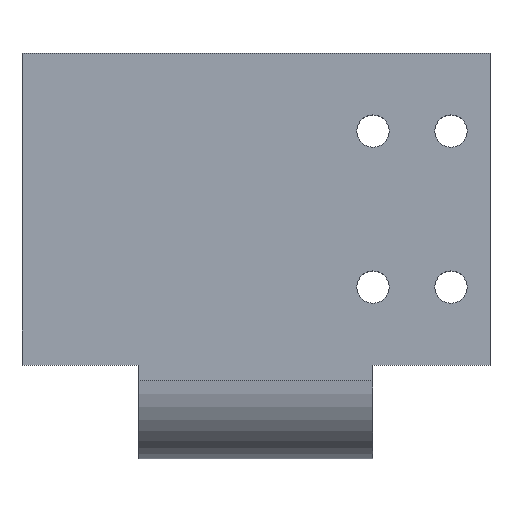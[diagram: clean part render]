
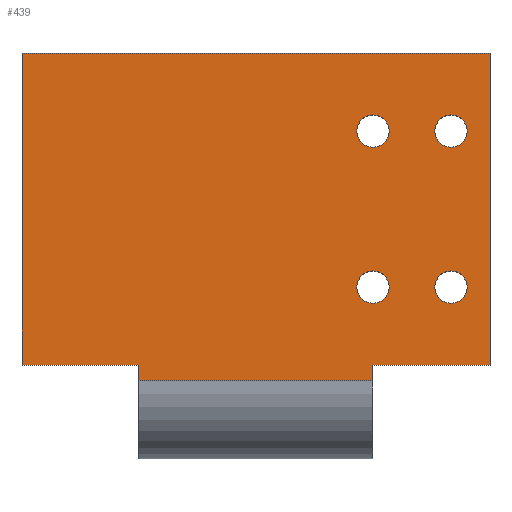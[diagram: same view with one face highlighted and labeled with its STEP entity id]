
A CAD part, top view. The second image highlights one B-rep face of the part: STEP entity #439.
In plain terms, the highlighted planar face has unit normal (0, 0, 1).
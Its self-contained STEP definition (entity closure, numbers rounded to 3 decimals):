
#26 = VECTOR ( 'NONE', #1461, 1000. ) ;
#43 = CARTESIAN_POINT ( 'NONE',  ( 60., -20., 0. ) ) ;
#58 = CARTESIAN_POINT ( 'NONE',  ( 45., 10., 0. ) ) ;
#65 = DIRECTION ( 'NONE',  ( 1., 0., 0. ) ) ;
#73 = EDGE_CURVE ( 'NONE', #450, #920, #1194, .T. ) ;
#78 = ORIENTED_EDGE ( 'NONE', *, *, #238, .F. ) ;
#79 = EDGE_CURVE ( 'NONE', #929, #450, #614, .T. ) ;
#81 = DIRECTION ( 'NONE',  ( 0., 0., 1. ) ) ;
#83 = ORIENTED_EDGE ( 'NONE', *, *, #284, .F. ) ;
#101 = EDGE_CURVE ( 'NONE', #1500, #1601, #658, .T. ) ;
#107 = VERTEX_POINT ( 'NONE', #1477 ) ;
#180 = EDGE_CURVE ( 'NONE', #920, #1601, #1426, .T. ) ;
#210 = VERTEX_POINT ( 'NONE', #1066 ) ;
#220 = DIRECTION ( 'NONE',  ( 0., 0., 1. ) ) ;
#223 = VECTOR ( 'NONE', #667, 1000. ) ;
#230 = CARTESIAN_POINT ( 'NONE',  ( 60., 20., 0. ) ) ;
#237 = DIRECTION ( 'NONE',  ( 1., 0., 0. ) ) ;
#238 = EDGE_CURVE ( 'NONE', #1256, #929, #413, .T. ) ;
#244 = DIRECTION ( 'NONE',  ( 1., 0., 0. ) ) ;
#247 = FACE_OUTER_BOUND ( 'NONE', #313, .T. ) ;
#258 = CARTESIAN_POINT ( 'NONE',  ( 0., 20., 0. ) ) ;
#262 = VECTOR ( 'NONE', #982, 1000. ) ;
#267 = FACE_BOUND ( 'NONE', #1288, .T. ) ;
#273 = EDGE_CURVE ( 'NONE', #1352, #1020, #526, .T. ) ;
#274 = CARTESIAN_POINT ( 'NONE',  ( 42.933, -10., 0. ) ) ;
#275 = DIRECTION ( 'NONE',  ( 0., -1., 0. ) ) ;
#284 = EDGE_CURVE ( 'NONE', #210, #1256, #547, .T. ) ;
#289 = CARTESIAN_POINT ( 'NONE',  ( 55., 10., 0. ) ) ;
#301 = DIRECTION ( 'NONE',  ( 0., 0., 1. ) ) ;
#308 = EDGE_CURVE ( 'NONE', #1117, #107, #1446, .T. ) ;
#313 = EDGE_LOOP ( 'NONE', ( #901, #686, #640, #1311, #679, #78, #83, #601 ) ) ;
#342 = DIRECTION ( 'NONE',  ( 1., 0., 0. ) ) ;
#346 = CARTESIAN_POINT ( 'NONE',  ( 52.933, -10., 0. ) ) ;
#365 = CARTESIAN_POINT ( 'NONE',  ( 55., 10., 0. ) ) ;
#377 = CARTESIAN_POINT ( 'NONE',  ( 57.067, 10., 0. ) ) ;
#381 = LINE ( 'NONE', #532, #223 ) ;
#402 = EDGE_CURVE ( 'NONE', #1045, #980, #1373, .T. ) ;
#403 = AXIS2_PLACEMENT_3D ( 'NONE', #289, #1448, #1199 ) ;
#412 = ORIENTED_EDGE ( 'NONE', *, *, #581, .F. ) ;
#413 = LINE ( 'NONE', #1409, #1230 ) ;
#417 = EDGE_CURVE ( 'NONE', #980, #1045, #1595, .T. ) ;
#420 = AXIS2_PLACEMENT_3D ( 'NONE', #867, #1610, #735 ) ;
#421 = CARTESIAN_POINT ( 'NONE',  ( 47.067, -10., 0. ) ) ;
#439 = ADVANCED_FACE ( 'NONE', ( #1390, #267, #1269, #498, #247 ), #1157, .F. ) ;
#445 = VERTEX_POINT ( 'NONE', #650 ) ;
#450 = VERTEX_POINT ( 'NONE', #1384 ) ;
#453 = CARTESIAN_POINT ( 'NONE',  ( 42.933, 10., 0. ) ) ;
#456 = CIRCLE ( 'NONE', #403, 2.067 ) ;
#468 = DIRECTION ( 'NONE',  ( 0., 0., 1. ) ) ;
#481 = DIRECTION ( 'NONE',  ( 0., 1., 0. ) ) ;
#498 = FACE_BOUND ( 'NONE', #1388, .T. ) ;
#518 = CARTESIAN_POINT ( 'NONE',  ( 45., 10., 0. ) ) ;
#526 = CIRCLE ( 'NONE', #926, 2.067 ) ;
#532 = CARTESIAN_POINT ( 'NONE',  ( 15., -32., 0. ) ) ;
#539 = CIRCLE ( 'NONE', #1064, 2.067 ) ;
#547 = LINE ( 'NONE', #624, #953 ) ;
#548 = CARTESIAN_POINT ( 'NONE',  ( 45., -10., 0. ) ) ;
#571 = CARTESIAN_POINT ( 'NONE',  ( 45., -22., 0. ) ) ;
#580 = ORIENTED_EDGE ( 'NONE', *, *, #308, .F. ) ;
#581 = EDGE_CURVE ( 'NONE', #445, #1413, #539, .T. ) ;
#601 = ORIENTED_EDGE ( 'NONE', *, *, #845, .T. ) ;
#614 = LINE ( 'NONE', #1587, #26 ) ;
#617 = EDGE_CURVE ( 'NONE', #1020, #1352, #456, .T. ) ;
#621 = DIRECTION ( 'NONE',  ( 0., 0., -1. ) ) ;
#624 = CARTESIAN_POINT ( 'NONE',  ( 0., 20., 0. ) ) ;
#640 = ORIENTED_EDGE ( 'NONE', *, *, #180, .F. ) ;
#642 = ORIENTED_EDGE ( 'NONE', *, *, #417, .F. ) ;
#650 = CARTESIAN_POINT ( 'NONE',  ( 47.067, 10., 0. ) ) ;
#657 = DIRECTION ( 'NONE',  ( 0., 0., 1. ) ) ;
#658 = LINE ( 'NONE', #1113, #262 ) ;
#667 = DIRECTION ( 'NONE',  ( 0., 1., 0. ) ) ;
#669 = CARTESIAN_POINT ( 'NONE',  ( 52.933, 10., 0. ) ) ;
#679 = ORIENTED_EDGE ( 'NONE', *, *, #79, .F. ) ;
#686 = ORIENTED_EDGE ( 'NONE', *, *, #101, .T. ) ;
#735 = DIRECTION ( 'NONE',  ( 1., 0., 0. ) ) ;
#752 = DIRECTION ( 'NONE',  ( 1., 0., 0. ) ) ;
#787 = DIRECTION ( 'NONE',  ( 1., 0., 0. ) ) ;
#793 = VECTOR ( 'NONE', #275, 1000. ) ;
#823 = ORIENTED_EDGE ( 'NONE', *, *, #402, .F. ) ;
#845 = EDGE_CURVE ( 'NONE', #210, #1031, #1203, .T. ) ;
#867 = CARTESIAN_POINT ( 'NONE',  ( 55., -10., 0. ) ) ;
#890 = CIRCLE ( 'NONE', #1535, 2.067 ) ;
#901 = ORIENTED_EDGE ( 'NONE', *, *, #1127, .F. ) ;
#912 = DIRECTION ( 'NONE',  ( 1., 0., 0. ) ) ;
#919 = CARTESIAN_POINT ( 'NONE',  ( 15., -20., 0. ) ) ;
#920 = VERTEX_POINT ( 'NONE', #1297 ) ;
#926 = AXIS2_PLACEMENT_3D ( 'NONE', #365, #1142, #237 ) ;
#929 = VERTEX_POINT ( 'NONE', #230 ) ;
#953 = VECTOR ( 'NONE', #481, 1000. ) ;
#980 = VERTEX_POINT ( 'NONE', #421 ) ;
#982 = DIRECTION ( 'NONE',  ( 1., 0., 0. ) ) ;
#997 = CARTESIAN_POINT ( 'NONE',  ( 55., -10., 0. ) ) ;
#998 = CARTESIAN_POINT ( 'NONE',  ( 45., 20., 0. ) ) ;
#1016 = ORIENTED_EDGE ( 'NONE', *, *, #1334, .F. ) ;
#1020 = VERTEX_POINT ( 'NONE', #669 ) ;
#1024 = CIRCLE ( 'NONE', #1305, 2.067 ) ;
#1031 = VERTEX_POINT ( 'NONE', #919 ) ;
#1040 = AXIS2_PLACEMENT_3D ( 'NONE', #1391, #621, #1551 ) ;
#1045 = VERTEX_POINT ( 'NONE', #274 ) ;
#1064 = AXIS2_PLACEMENT_3D ( 'NONE', #58, #220, #342 ) ;
#1066 = CARTESIAN_POINT ( 'NONE',  ( 0., -20., 0. ) ) ;
#1085 = EDGE_LOOP ( 'NONE', ( #412, #1562 ) ) ;
#1105 = AXIS2_PLACEMENT_3D ( 'NONE', #1274, #468, #752 ) ;
#1106 = ORIENTED_EDGE ( 'NONE', *, *, #617, .F. ) ;
#1113 = CARTESIAN_POINT ( 'NONE',  ( 45., -22., 0. ) ) ;
#1117 = VERTEX_POINT ( 'NONE', #346 ) ;
#1127 = EDGE_CURVE ( 'NONE', #1500, #1031, #381, .T. ) ;
#1132 = DIRECTION ( 'NONE',  ( 1., 0., 0. ) ) ;
#1139 = VECTOR ( 'NONE', #1211, 1000. ) ;
#1142 = DIRECTION ( 'NONE',  ( 0., 0., 1. ) ) ;
#1152 = CARTESIAN_POINT ( 'NONE',  ( 15., -22., 0. ) ) ;
#1157 = PLANE ( 'NONE',  #1040 ) ;
#1194 = LINE ( 'NONE', #43, #1139 ) ;
#1199 = DIRECTION ( 'NONE',  ( 1., 0., 0. ) ) ;
#1203 = LINE ( 'NONE', #1598, #1243 ) ;
#1211 = DIRECTION ( 'NONE',  ( -1., 0., 0. ) ) ;
#1221 = EDGE_CURVE ( 'NONE', #1413, #445, #1024, .T. ) ;
#1230 = VECTOR ( 'NONE', #244, 1000. ) ;
#1237 = ORIENTED_EDGE ( 'NONE', *, *, #273, .F. ) ;
#1243 = VECTOR ( 'NONE', #787, 1000. ) ;
#1256 = VERTEX_POINT ( 'NONE', #258 ) ;
#1269 = FACE_BOUND ( 'NONE', #1085, .T. ) ;
#1274 = CARTESIAN_POINT ( 'NONE',  ( 45., -10., 0. ) ) ;
#1288 = EDGE_LOOP ( 'NONE', ( #1016, #580 ) ) ;
#1297 = CARTESIAN_POINT ( 'NONE',  ( 45., -20., 0. ) ) ;
#1305 = AXIS2_PLACEMENT_3D ( 'NONE', #518, #657, #912 ) ;
#1311 = ORIENTED_EDGE ( 'NONE', *, *, #73, .F. ) ;
#1334 = EDGE_CURVE ( 'NONE', #107, #1117, #890, .T. ) ;
#1352 = VERTEX_POINT ( 'NONE', #377 ) ;
#1373 = CIRCLE ( 'NONE', #1105, 2.067 ) ;
#1384 = CARTESIAN_POINT ( 'NONE',  ( 60., -20., 0. ) ) ;
#1388 = EDGE_LOOP ( 'NONE', ( #642, #823 ) ) ;
#1390 = FACE_BOUND ( 'NONE', #1528, .T. ) ;
#1391 = CARTESIAN_POINT ( 'NONE',  ( 0., 0., 0. ) ) ;
#1409 = CARTESIAN_POINT ( 'NONE',  ( 15., 20., 0. ) ) ;
#1413 = VERTEX_POINT ( 'NONE', #453 ) ;
#1423 = AXIS2_PLACEMENT_3D ( 'NONE', #548, #301, #65 ) ;
#1426 = LINE ( 'NONE', #998, #793 ) ;
#1446 = CIRCLE ( 'NONE', #420, 2.067 ) ;
#1448 = DIRECTION ( 'NONE',  ( 0., 0., 1. ) ) ;
#1461 = DIRECTION ( 'NONE',  ( 0., -1., 0. ) ) ;
#1477 = CARTESIAN_POINT ( 'NONE',  ( 57.067, -10., 0. ) ) ;
#1500 = VERTEX_POINT ( 'NONE', #1152 ) ;
#1528 = EDGE_LOOP ( 'NONE', ( #1237, #1106 ) ) ;
#1535 = AXIS2_PLACEMENT_3D ( 'NONE', #997, #81, #1132 ) ;
#1551 = DIRECTION ( 'NONE',  ( -1., 0., 0. ) ) ;
#1562 = ORIENTED_EDGE ( 'NONE', *, *, #1221, .F. ) ;
#1587 = CARTESIAN_POINT ( 'NONE',  ( 60., -20., 0. ) ) ;
#1595 = CIRCLE ( 'NONE', #1423, 2.067 ) ;
#1598 = CARTESIAN_POINT ( 'NONE',  ( 0., -20., 0. ) ) ;
#1601 = VERTEX_POINT ( 'NONE', #571 ) ;
#1610 = DIRECTION ( 'NONE',  ( 0., 0., 1. ) ) ;
